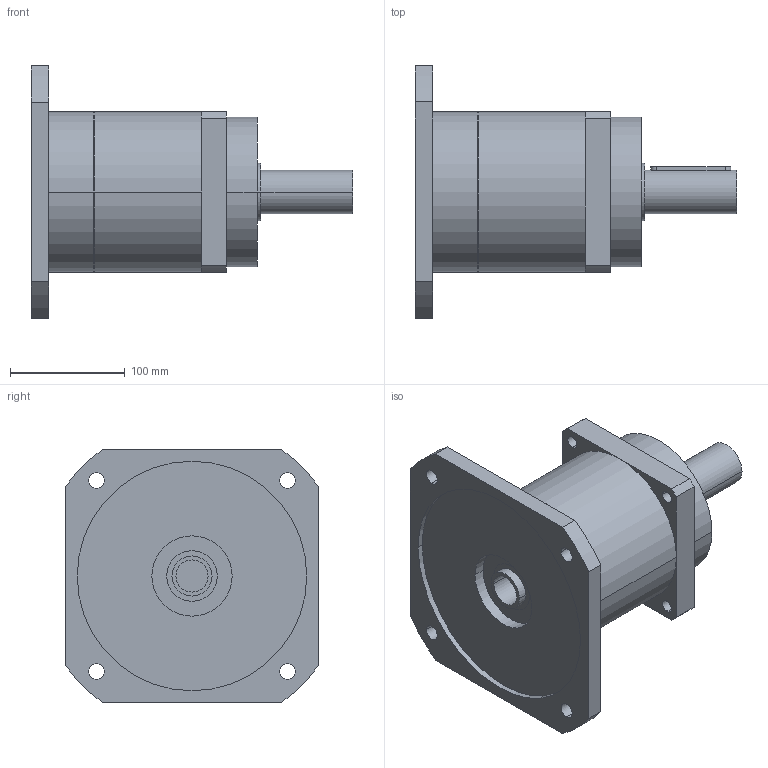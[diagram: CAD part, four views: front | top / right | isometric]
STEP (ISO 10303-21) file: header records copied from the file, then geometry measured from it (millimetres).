
FILE_DESCRIPTION(('CoCreate Modeling STEP Export'),'2;1');
FILE_NAME('GPR150_ig-3-4-5-7_38_B5_28_P12.stp','2014-08-19T16:42:47',(''),(''),'CoCreate Modeling STEP processor for AP214 (Solid Model)','CoCreate Modeling 16.00C 25-Feb-2009 (C) Parametric Technology GmbH','');
FILE_SCHEMA(('AUTOMOTIVE_DESIGN { 1 0 10303 214 1 1 1 1 }'));
Length unit declared in the file: millimetre
Products named in the file (2): GPR150_ig-3-4-5-7_38_B5_28_P12
Assembly tree (1 placements, depth 2):
  GPR150_ig-3-4-5-7_38_B5_28_P12
    GPR150_ig-3-4-5-7_38_B5_28_P12
Bounding box: 280 x 220 x 220 mm (x, y, z)
Volume: 3379631.8 mm3; surface area: 223215.2 mm2
Topology: 1 solids, 1 shells, 81 faces, 220 edges, 150 vertices
Faces by surface type: cylinder 48, plane 27, cone 6
Entity records: 2325 total; most frequent: ORIENTED_EDGE 436, CARTESIAN_POINT 431, DIRECTION 330, EDGE_CURVE 218, VERTEX_POINT 150, AXIS2_PLACEMENT_3D 121, EDGE_LOOP 108, VECTOR 88
